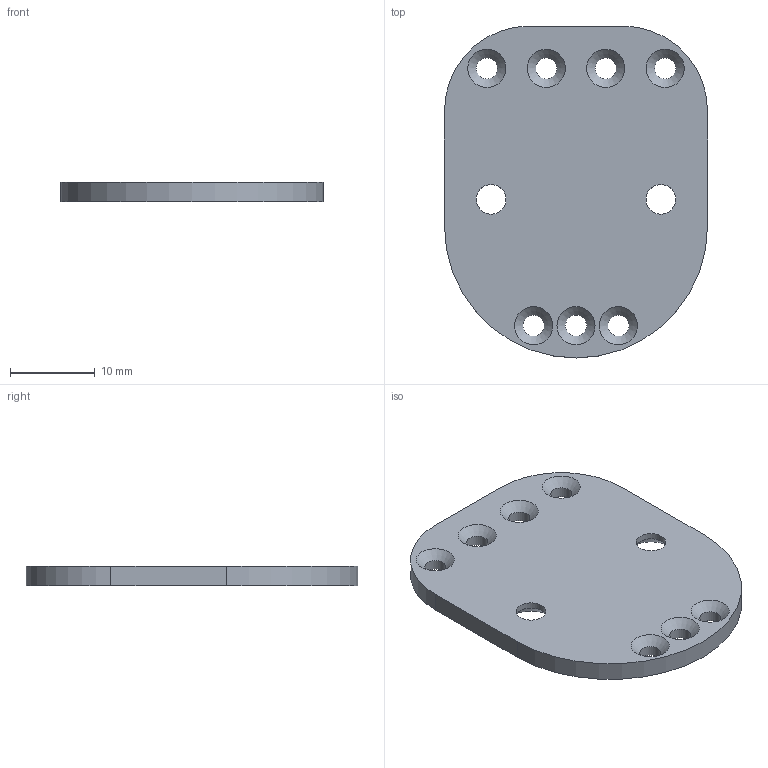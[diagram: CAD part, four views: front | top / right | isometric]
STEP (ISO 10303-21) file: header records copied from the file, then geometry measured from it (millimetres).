
FILE_DESCRIPTION(/* description */ ('','CAx-IF Rec.Pracs.---Representation and Presentation of Product Manufacturing Information (PMI)---3.8---2014-02-18'),/* implementation_level */ '2;1');
FILE_NAME(/* name */ 'D:\Inventor\1p2p\for vendors\DM mount\Optima order\DM2SmaractPlate.stp',/* time_stamp */ '2018-05-07T13:50:55-07:00',/* author */ ('Radek'),/* organization */ (''),/* preprocessor_version */ 'ST-DEVELOPER v16.5',/* originating_system */ 'Autodesk Inventor 2017',/* authorisation */ '');
FILE_SCHEMA (('AP242_MANAGED_MODEL_BASED_3D_ENGINEERING_MIM_LF { 1 0 10303 442 1 1 4 }'));
Length unit declared in the file: millimetre
Products named in the file (1): DM2SmaractPlate
Bounding box: 31 x 39.12 x 2.25 mm (x, y, z)
Volume: 2212.8 mm3; surface area: 2429.1 mm2
Topology: 1 solids, 1 shells, 26 faces, 63 edges, 39 vertices
Faces by surface type: cylinder 12, cone 9, plane 5
Full cylindrical faces by diameter (mm): 2.5 x7, 3.5 x2
Entity records: 744 total; most frequent: DIRECTION 132, CARTESIAN_POINT 111, ORIENTED_EDGE 90, EDGE_LOOP 62, AXIS2_PLACEMENT_3D 60, EDGE_CURVE 45, VERTEX_POINT 39, FACE_BOUND 36
